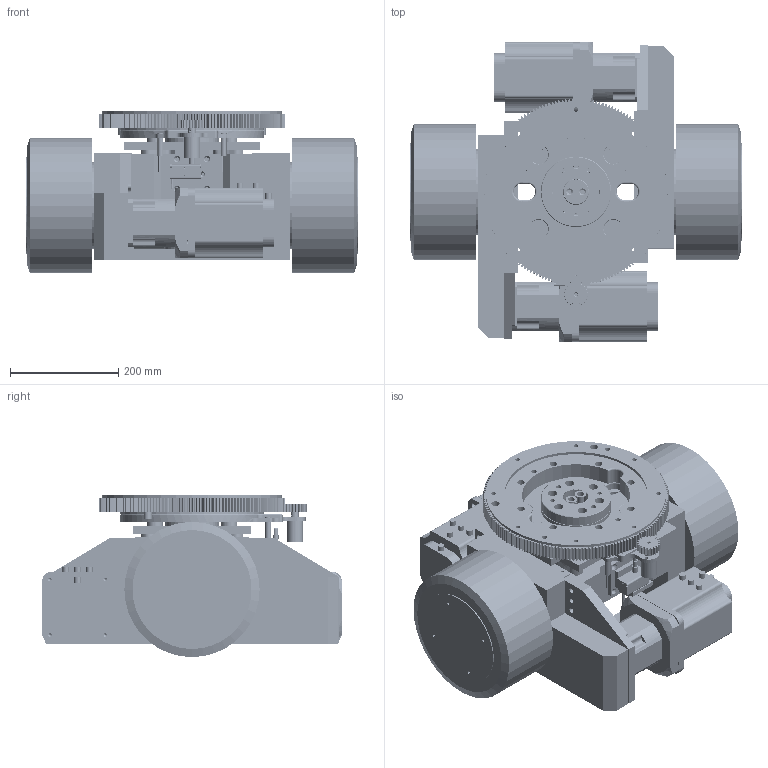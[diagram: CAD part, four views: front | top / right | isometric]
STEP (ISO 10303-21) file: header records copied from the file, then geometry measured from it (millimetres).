
FILE_DESCRIPTION(/* description */ (''),/* implementation_level */ '2;1');
FILE_NAME(/* name */ 'TYCD250-SM15030BGZ-i3x20-i17020 LK120 H300 D650 S110 PB3 6T.stp',/* time_stamp */ '2026-06-05T13:13:35+08:00',/* author */ (''),/* organization */ (''),/* preprocessor_version */ 'ST-DEVELOPER v20.1',/* originating_system */ 'SIEMENS PLM Software NX2512.1700',/* authorisation */ '');
FILE_SCHEMA (('AUTOMOTIVE_DESIGN { 1 0 10303 214 3 1 1 1 }'));
Products named in the file (1): TYCD250-SM15030BGZ-i3x20-i17020  LK120 H300 D650 S110 PB3 6T_objects
Bounding box: 614 x 553.45 x 300 mm (x, y, z)
Volume: 30976545.9 mm3; surface area: 4372808.4 mm2
Topology: 146 solids, 191 shells, 5742 faces, 15367 edges, 10308 vertices
Faces by surface type: cylinder 3155, plane 1132, cone 821, extrusion 490, torus 76, sphere 55, bspline 13
Full cylindrical faces by diameter (mm): 2.5 x2, 3 x3, 3.2 x3, 3.3 x10, 4.2 x34, 4.917 x2, 5 x18, 5.2 x31, 5.5 x29, 6 x9, 6.2 x12, 6.5 x22, 6.667 x36, 6.8 x30, 7 x11, 8 x5, 8.5 x88, 9 x17, 10 x73, 10.3 x4, 10.5 x66, 11 x11, 12 x54, 12.5 x2, 14 x8, 14.2 x1, 15 x6, 17 x74, 20 x7, 22 x6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
Entity records: 188034 total; most frequent: CARTESIAN_POINT 47208, DIRECTION 29780, ORIENTED_EDGE 26412, EDGE_CURVE 13206, AXIS2_PLACEMENT_3D 12683, VERTEX_POINT 9488, EDGE_LOOP 8078, CIRCLE 7385
